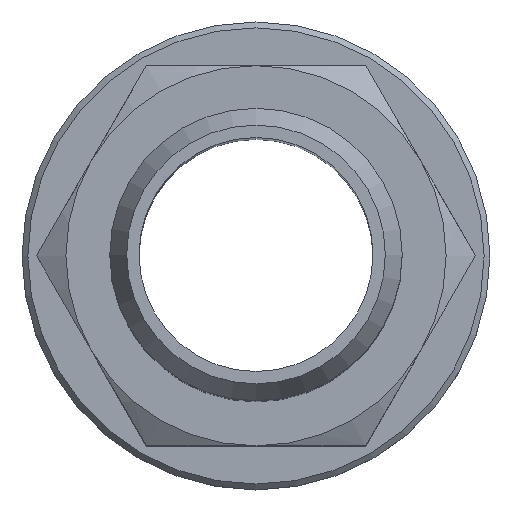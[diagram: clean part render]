
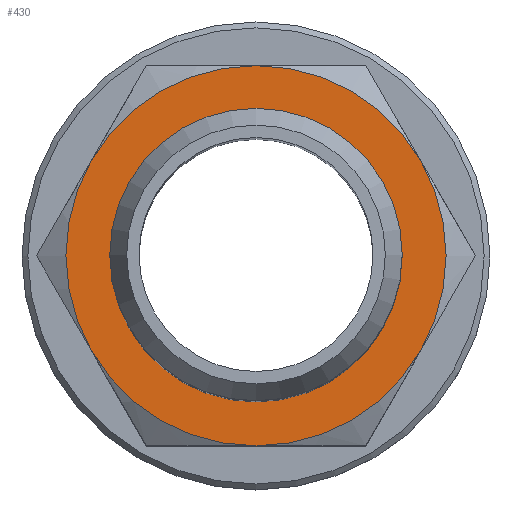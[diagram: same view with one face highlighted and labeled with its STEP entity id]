
A CAD part, top view. The second image highlights one B-rep face of the part: STEP entity #430.
In plain terms, the highlighted planar face has unit normal (0, 0, 1).
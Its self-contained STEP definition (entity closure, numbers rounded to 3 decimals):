
#430=ADVANCED_FACE('', (#440,#450), #460, .T.);
#1840=AXIS2_PLACEMENT_3D('Ax2Pl3d', #1850, #1860, #1870);
#2280=AXIS2_PLACEMENT_3D('Ax2Pl3d', #2290, #2300, #2310);
#2320=AXIS2_PLACEMENT_3D('Ax2Pl3d', #2330, #2340, #2350);
#2360=AXIS2_PLACEMENT_3D('Ax2Pl3d', #2370, #2380, #2390);
#2400=AXIS2_PLACEMENT_3D('Ax2Pl3d', #2410, #2420, #2430);
#2440=AXIS2_PLACEMENT_3D('Ax2Pl3d', #2450, #2460, #2470);
#2480=AXIS2_PLACEMENT_3D('Ax2Pl3d', #2490, #2500, #2510);
#2520=AXIS2_PLACEMENT_3D('Ax2Pl3d', #2530, #2540, #2550);
#1850=CARTESIAN_POINT('HicPkt', (12.823,11.302,
24.317));
#5890=CARTESIAN_POINT('', (18.452,8.052,24.317));
#5900=CARTESIAN_POINT('', (12.823,4.802,24.317));
#5970=CARTESIAN_POINT('', (7.194,14.552,24.317));
#6020=CARTESIAN_POINT('', (12.823,17.802,24.317));
#6070=CARTESIAN_POINT('', (18.452,14.552,24.317));
#6180=CARTESIAN_POINT('', (7.194,8.052,24.317));
#2290=CARTESIAN_POINT('HicPkt', (19.323,11.302,
24.317));
#2330=CARTESIAN_POINT('HicPkt', (12.823,11.302,
24.317));
#2370=CARTESIAN_POINT('HicPkt', (12.823,11.302,
24.317));
#2410=CARTESIAN_POINT('HicPkt', (12.823,11.302,
24.317));
#2450=CARTESIAN_POINT('HicPkt', (12.823,11.302,
24.317));
#2490=CARTESIAN_POINT('HicPkt', (12.823,11.302,
24.317));
#2530=CARTESIAN_POINT('HicPkt', (12.823,11.302,
24.317));
#6210=CARTESIAN_POINT('', (12.823,16.302,24.317));
#6490=CIRCLE('Circle', #1840, 6.5);
#6520=CIRCLE('Circle', #2320, 6.5);
#6530=CIRCLE('Circle', #2360, 6.5);
#6540=CIRCLE('Circle', #2400, 6.5);
#6550=CIRCLE('Circle', #2440, 6.5);
#6560=CIRCLE('Circle', #2480, 6.5);
#6570=CIRCLE('Circle', #2520, 5.);
#1860=DIRECTION('Axis', (0.,0.,-1.));
#1870=DIRECTION('RefDirection', (-1.,-0.,0.));
#2300=DIRECTION('Axis', (0.,0.,1.));
#2310=DIRECTION('RefDirection', (1.,0.,-0.));
#2340=DIRECTION('Axis', (0.,0.,-1.));
#2350=DIRECTION('RefDirection', (-1.,-0.,0.));
#2380=DIRECTION('Axis', (0.,0.,-1.));
#2390=DIRECTION('RefDirection', (-1.,-0.,0.));
#2420=DIRECTION('Axis', (0.,0.,-1.));
#2430=DIRECTION('RefDirection', (-1.,-0.,0.));
#2460=DIRECTION('Axis', (0.,0.,-1.));
#2470=DIRECTION('RefDirection', (-1.,-0.,0.));
#2500=DIRECTION('Axis', (0.,0.,-1.));
#2510=DIRECTION('RefDirection', (-1.,-0.,0.));
#2540=DIRECTION('Axis', (0.,0.,1.));
#2550=DIRECTION('RefDirection', (1.,0.,-0.));
#8870=EDGE_CURVE('', #8880, #8890, #6490, .T.);
#9460=EDGE_CURVE('', #9190, #8880, #6520, .T.);
#9470=EDGE_CURVE('', #9100, #9190, #6530, .T.);
#9480=EDGE_CURVE('', #9010, #9100, #6540, .T.);
#9490=EDGE_CURVE('', #9400, #9010, #6550, .T.);
#9500=EDGE_CURVE('', #8890, #9400, #6560, .T.);
#9510=EDGE_CURVE('', #9520, #9520, #6570, .T.);
#10640=EDGE_LOOP('Edge_loop', (#10650,#10660,#10670,#10680,#10690,
#10700));
#10710=EDGE_LOOP('Edge_loop', (#10720));
#450=FACE_BOUND('', #10710, .T.);
#440=FACE_OUTER_BOUND('Face_outer_bound', #10640, .T.);
#10650=ORIENTED_EDGE('', *, *, #8870, .F.);
#10660=ORIENTED_EDGE('', *, *, #9460, .F.);
#10670=ORIENTED_EDGE('', *, *, #9470, .F.);
#10680=ORIENTED_EDGE('', *, *, #9480, .F.);
#10690=ORIENTED_EDGE('', *, *, #9490, .F.);
#10700=ORIENTED_EDGE('', *, *, #9500, .F.);
#10720=ORIENTED_EDGE('', *, *, #9510, .F.);
#460=PLANE('Plane', #2280);
#8880=VERTEX_POINT('', #5890);
#8890=VERTEX_POINT('', #5900);
#9010=VERTEX_POINT('', #5970);
#9100=VERTEX_POINT('', #6020);
#9190=VERTEX_POINT('', #6070);
#9400=VERTEX_POINT('', #6180);
#9520=VERTEX_POINT('', #6210);
